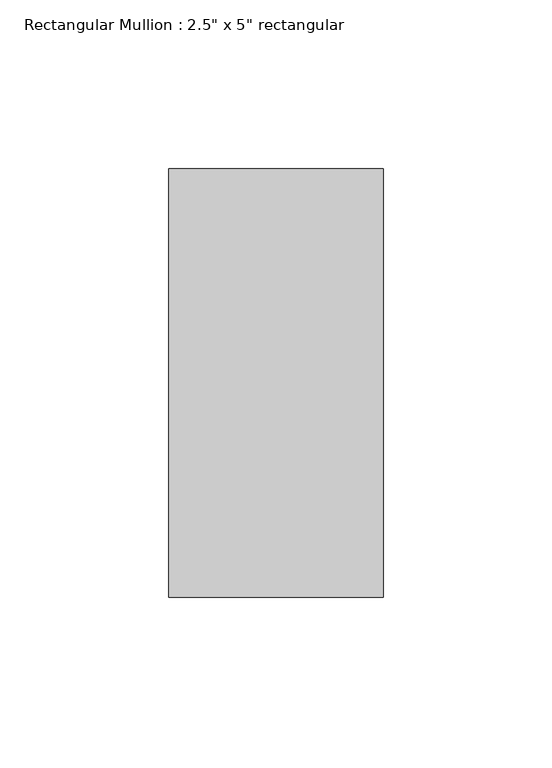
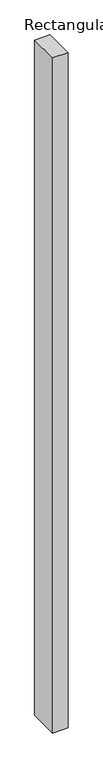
"""IFC4 building model written with IfcOpenShell, lengths in millimetres: member geometry."""

from ifc_helpers import new_model, si_unit, frame, origin, place, context, project, spatial, polyline, outline, extrude, source, transform, mapped, element, save


def member_2ed7bf35(model_context):
    return source(origin(), model_context, "Body", "SweptSolid", [
        extrude(outline(polyline([(31.75, 63.5), (31.75, -63.5), (-31.75, -63.5), (-31.75, 63.5), (31.75, 63.5)])), frame((0.0, 0.0, -2921.0), z_axis=(0.0, 0.0, 1.0), x_axis=(1.0, 0.0, 0.0)), (0.0, 0.0, 1.0), 2921.0),
    ])


if __name__ == "__main__":
    model = new_model("IFC4")
    model_context = context("Model", 3, world=origin())
    ifc_project = project(units=[si_unit("LENGTHUNIT", "METRE", prefix="MILLI")], contexts=[model_context])
    site = spatial("IfcSite", under=ifc_project)
    building = spatial("IfcBuilding", under=site)
    placement = place(None, origin())
    member_shape = member_2ed7bf35(model_context)
    element("IfcMember", 1, ObjectType="Rectangular Mullion : 2.5\" x 5\" rectangular", at=placement, inside=building, context=model_context, shape_type="MappedRepresentation", body=[
        mapped(member_shape, transform((0.0, 0.0, 0.0), x_axis=(1.0, 0.0, 0.0), y_axis=(0.0, 1.0, 0.0), z_axis=(0.0, 0.0, 1.0))),
    ])
    save(model, "model.ifc")
